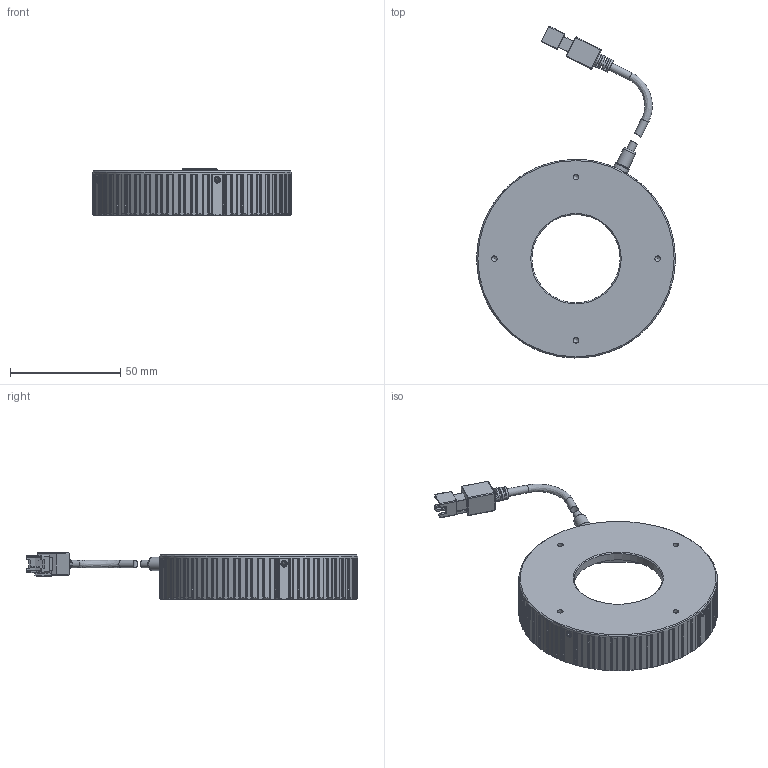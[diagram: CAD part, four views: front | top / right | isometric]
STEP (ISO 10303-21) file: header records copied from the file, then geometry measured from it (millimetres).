
FILE_DESCRIPTION (( 'STEP AP203' ), '1' );
FILE_NAME ('OPT-URI9030-UV-V1.0.STEP', '2025-02-15T07:50:26', ( '' ), ( '' ), 'SwSTEP 2.0', 'SolidWorks 2016', '' );
FILE_SCHEMA (( 'CONFIG_CONTROL_DESIGN' ));
Length unit declared in the file: millimetre
Products named in the file (1): OPT-URI9030-UV-V1.0
Bounding box: 90 x 150.52 x 20.9 mm (x, y, z)
Volume: 57674.9 mm3; surface area: 26837 mm2
Topology: 4 solids, 4 shells, 750 faces, 2054 edges, 1325 vertices
Faces by surface type: plane 346, cylinder 297, cone 78, bspline 29
Full cylindrical faces by diameter (mm): 1.6 x4, 2 x4, 2.2 x4, 2.5 x4, 3.5 x3, 5 x1, 6 x1, 7 x1, 40 x1, 42 x1, 81.999 x1, 86.1 x1, 90 x1
Entity records: 25128 total; most frequent: CARTESIAN_POINT 7053, ORIENTED_EDGE 3924, DIRECTION 3503, EDGE_CURVE 1962, VERTEX_POINT 1292, AXIS2_PLACEMENT_3D 1278, LINE 947, VECTOR 947
